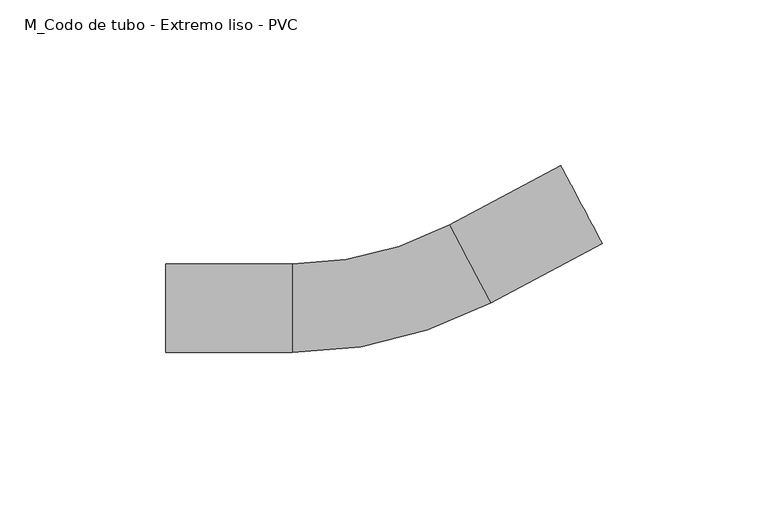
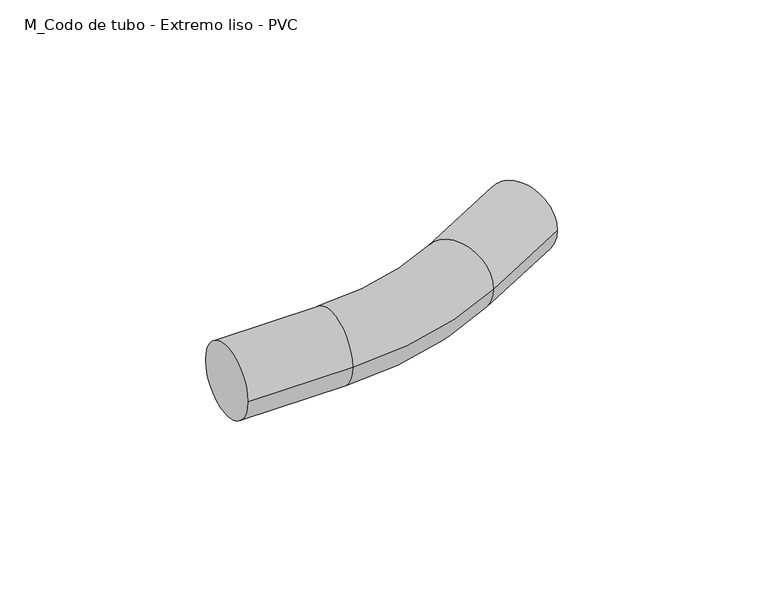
"""IFC4 building model written with IfcOpenShell, lengths in millimetres: cable carrier fitting geometry, M_Codo de tubo - Extremo liso - PVC : CODO ILUMINACION."""

from ifc_helpers import new_model, si_unit, point, frame, origin, place, context, project, spatial, circle_curve, ellipse_curve, trimmed, source, transform, mapped, element, save
from ifc_brep_helpers import plane_surface, cylinder_surface, revolved_surface, advanced_brep


def m_codo_de_tubo_extremo_liso_pvc_c6f8b71f(model_context):
    return source(origin(), model_context, "Body", "AdvancedBrep", [
        advanced_brep(
        [(-66.5981907, -13.335, 0.0), (-66.5981907, 13.335, 0.0), (-28.4981907, -13.335, 0.0), (-28.4981907, 13.335, 0.0), (18.9020056, 25.1531963, 0.0), (31.4228122, 1.604984, 0.0), (65.0631155, 19.4918505, 0.0), (52.5423089, 43.0400628, 0.0)],
        [
            (0, 1, circle_curve(frame((-66.5981907, 0.0, 0.0), z_axis=(-1.0, 0.0, 0.0), x_axis=(0.0, 1.0, 0.0)), 13.335)),
            (1, 0, circle_curve(frame((-66.5981907, 0.0, 0.0), z_axis=(-1.0, 0.0, 0.0), x_axis=(0.0, 1.0, 0.0)), 13.335)),
            (0, 2),
            (2, 3, circle_curve(frame((-28.4981907, 0.0, 0.0), z_axis=(-1.0, 0.0, 0.0), x_axis=(0.0, 1.0, 0.0)), 13.335)),
            (3, 1),
            (3, 2, circle_curve(frame((-28.4981907, 0.0, 0.0), z_axis=(-1.0, 0.0, 0.0), x_axis=(0.0, 1.0, 0.0)), 13.335)),
            (4, 3, circle_curve(frame((-28.4981907, 114.3, 0.0), z_axis=(0.0, 0.0, -1.0), x_axis=(0.0, -1.0, 0.0)), 100.965)),
            (2, 5, circle_curve(frame((-28.4981907, 114.3, 0.0), z_axis=(0.0, 0.0, 1.0), x_axis=(0.0, -1.0, 0.0)), 127.635)),
            (5, 4, circle_curve(frame((25.1624089, 13.3790901, 0.0), z_axis=(-0.8829475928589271, -0.46947156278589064, 0.0), x_axis=(-0.46947156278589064, 0.8829475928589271, 0.0)), 13.335)),
            (4, 5, circle_curve(frame((25.1624089, 13.3790901, 0.0), z_axis=(-0.8829475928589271, -0.4694715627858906, 0.0), x_axis=(-0.4694715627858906, 0.8829475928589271, 0.0)), 13.335)),
            (6, 7, circle_curve(frame((58.8027122, 31.2659567, 0.0), z_axis=(0.882947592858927, 0.46947156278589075, 0.0), x_axis=(-0.46947156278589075, 0.882947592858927, 0.0)), 13.335)),
            (7, 6, circle_curve(frame((58.8027122, 31.2659567, 0.0), z_axis=(0.882947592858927, 0.46947156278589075, 0.0), x_axis=(-0.46947156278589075, 0.882947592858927, 0.0)), 13.335)),
            (5, 6),
            (7, 4),
        ],
        [
            plane_surface(frame((-66.5981907, 0.0, 0.0), z_axis=(-1.0, 0.0, 0.0), x_axis=(0.0, 0.0, 1.0))),
            cylinder_surface(frame((-66.5981907, 0.0, 0.0), z_axis=(-1.0, 0.0, 0.0), x_axis=(0.0, 1.0, 0.0)), 13.335),
            revolved_surface(trimmed(ellipse_curve(frame((-28.4981907, 0.0, 0.0), z_axis=(-1.0, 0.0, 0.0), x_axis=(0.0, 1.0, 0.0)), 13.335, 13.335), [point((-28.4981907, -13.335, 0.0))], [point((-28.4981907, 13.335, 0.0))], True, "CARTESIAN"), (-28.4981907, 114.3, 0.0), (0.0, 0.0, 1.0)),
            revolved_surface(trimmed(ellipse_curve(frame((-28.4981907, 0.0, 0.0), z_axis=(-1.0, 0.0, 0.0), x_axis=(0.0, 1.0, 0.0)), 13.335, 13.335), [point((-28.4981907, 13.335, 0.0))], [point((-28.4981907, -13.335, 0.0))], True, "CARTESIAN"), (-28.4981907, 114.3, 0.0), (0.0, 0.0, 1.0)),
            plane_surface(frame((58.8027122, 31.2659567, 0.0), z_axis=(0.882947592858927, 0.46947156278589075, 0.0), x_axis=(0.0, 0.0, 1.0))),
            cylinder_surface(frame((25.1624089, 13.3790901, 0.0), z_axis=(-0.882947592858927, -0.46947156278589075, 0.0), x_axis=(-0.46947156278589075, 0.882947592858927, 0.0)), 13.335),
        ],
        [
            (0, [[1, 2]]),
            (1, [[-1, 3, 4, 5]]),
            (1, [[-2, -5, 6, -3]]),
            (2, [[7, -4, 8, 9]]),
            (3, [[-8, -6, -7, 10]]),
            (4, [[11, 12]]),
            (5, [[-9, 13, -12, 14]]),
            (5, [[-10, -14, -11, -13]]),
        ],
    ),
    ])


if __name__ == "__main__":
    model = new_model("IFC4")
    model_context = context("Model", 3, world=origin())
    ifc_project = project(units=[si_unit("LENGTHUNIT", "METRE", prefix="MILLI")], contexts=[model_context])
    site = spatial("IfcSite", under=ifc_project)
    building = spatial("IfcBuilding", under=site)
    placement = place(None, origin())
    m_codo_de_tubo_extremo_liso_pvc_shape = m_codo_de_tubo_extremo_liso_pvc_c6f8b71f(model_context)
    element("IfcCableCarrierFitting", 1, ObjectType="M_Codo de tubo - Extremo liso - PVC : CODO ILUMINACION", at=placement, inside=building, context=model_context, shape_type="MappedRepresentation", body=[
        mapped(m_codo_de_tubo_extremo_liso_pvc_shape, transform((0.0, 0.0, 0.0), x_axis=(1.0, 0.0, 0.0), y_axis=(0.0, 1.0, 0.0), z_axis=(0.0, 0.0, 1.0))),
    ])
    save(model, "model.ifc")
